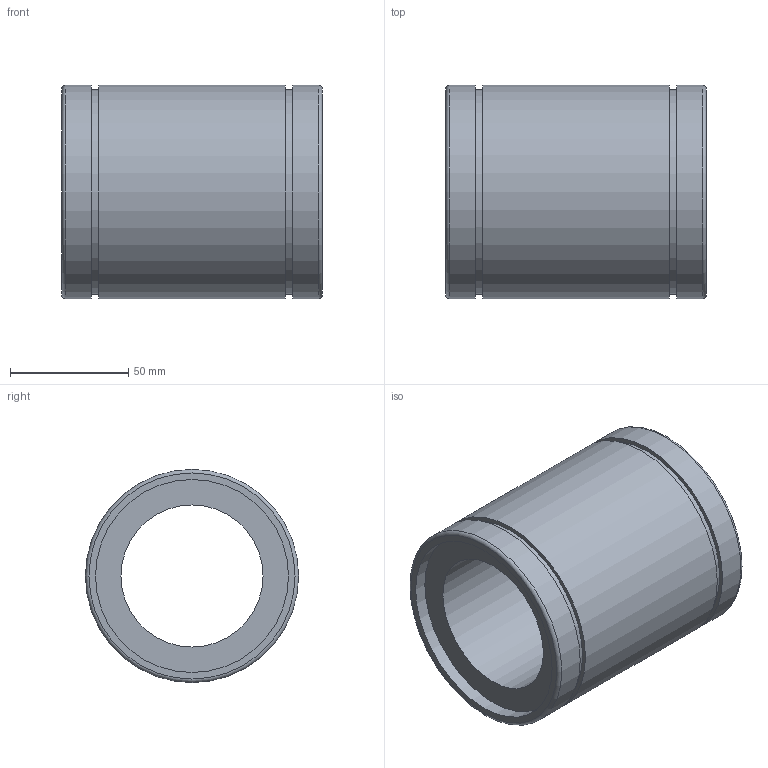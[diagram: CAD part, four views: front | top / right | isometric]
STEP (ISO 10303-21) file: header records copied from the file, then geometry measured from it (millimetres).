
FILE_DESCRIPTION( ( 'Unknown' ), '1' );
FILE_NAME( 'D:/累诀/己绕皋墨飘肺葱胶/11-04-06_档搁累己/01_府聪绢何教/LM/LM60.stp', 'Unknown', ( 'Unknown' ), ( 'Unknown' ), 'PSStep 11.0', 'Unknown', ' ' );
FILE_SCHEMA( ( 'AUTOMOTIVE_DESIGN { 1 0 10303 214 1 1 1 1 }' ) );
Length unit declared in the file: millimetre
Products named in the file (1): 1
Bounding box: 110 x 90 x 90 mm (x, y, z)
Volume: 359161.3 mm3; surface area: 61153.2 mm2
Topology: 1 solids, 1 shells, 18 faces, 30 edges, 20 vertices
Faces by surface type: plane 8, cylinder 8, torus 2
Full cylindrical faces by diameter (mm): 60 x1, 81.5 x2, 86.5 x2, 90 x3
Entity records: 528 total; most frequent: DIRECTION 74, CARTESIAN_POINT 55, AXIS2_PLACEMENT_3D 37, EDGE_LOOP 36, ORIENTED_EDGE 36, FACE_OUTER_BOUND 28, STYLED_ITEM 18, PRESENTATION_STYLE_ASSIGNMENT 18
